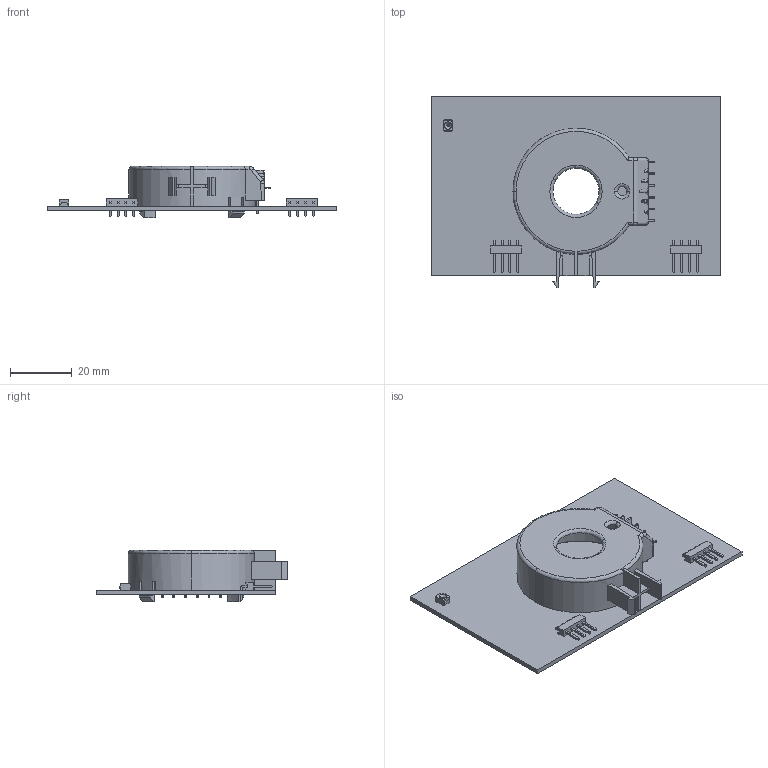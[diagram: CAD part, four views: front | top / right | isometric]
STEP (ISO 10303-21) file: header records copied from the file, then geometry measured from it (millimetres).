
FILE_DESCRIPTION (( 'STEP AP214' ), '1' );
FILE_NAME ('RCMA278.STEP', '2014-07-02T13:00:28', ( 'User' ), ( 'Bender' ), 'SwSTEP 2.0', 'SolidWorks 2014', '' );
FILE_SCHEMA (( 'AUTOMOTIVE_DESIGN' ));
Length unit declared in the file: millimetre
Products named in the file (10): RCMA278; V1; L1; X1-4; l132502; X9-12
Assembly tree (5 placements, depth 2):
  RCMA278
    l132502
    X1-4  x2
    L1
    V1
  V1
  L1
  X9-12
  X1-4
Bounding box: 94.2 x 62.4 x 16.7 mm (x, y, z)
Volume: 11552.7 mm3; surface area: 18066.9 mm2
Topology: 5 solids, 5 shells, 455 faces, 1127 edges, 716 vertices
Faces by surface type: plane 342, cylinder 87, bspline 22, torus 2, cone 2
Entity records: 13546 total; most frequent: CARTESIAN_POINT 2912, ORIENTED_EDGE 1786, DIRECTION 1604, EDGE_CURVE 893, LINE 606, VECTOR 606, VERTEX_POINT 572, AXIS2_PLACEMENT_3D 499
